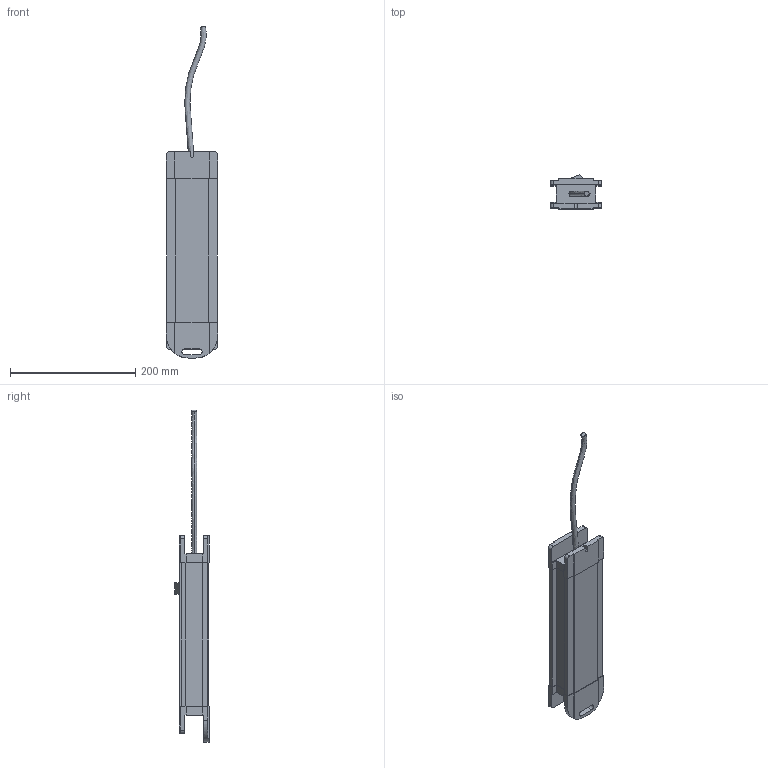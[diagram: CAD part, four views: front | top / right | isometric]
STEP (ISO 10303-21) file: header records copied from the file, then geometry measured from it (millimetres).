
FILE_DESCRIPTION (( 'STEP AP214' ), '1' );
FILE_NAME ('1600913_0.STEP', '2026-01-13T15:04:55', ( '' ), ( '' ), 'SwSTEP 2.0', 'SolidWorks 2024', '' );
FILE_SCHEMA (( 'AUTOMOTIVE_DESIGN' ));
Length unit declared in the file: millimetre
Products named in the file (1): 1600913_0
Bounding box: 82 x 55 x 531.08 mm (x, y, z)
Volume: 808754.8 mm3; surface area: 120338.4 mm2
Topology: 2 solids, 2 shells, 108 faces, 291 edges, 194 vertices
Faces by surface type: plane 87, cylinder 19, bspline 2
Entity records: 3635 total; most frequent: CARTESIAN_POINT 846, ORIENTED_EDGE 582, DIRECTION 547, EDGE_CURVE 291, LINE 245, VECTOR 245, VERTEX_POINT 194, AXIS2_PLACEMENT_3D 151
